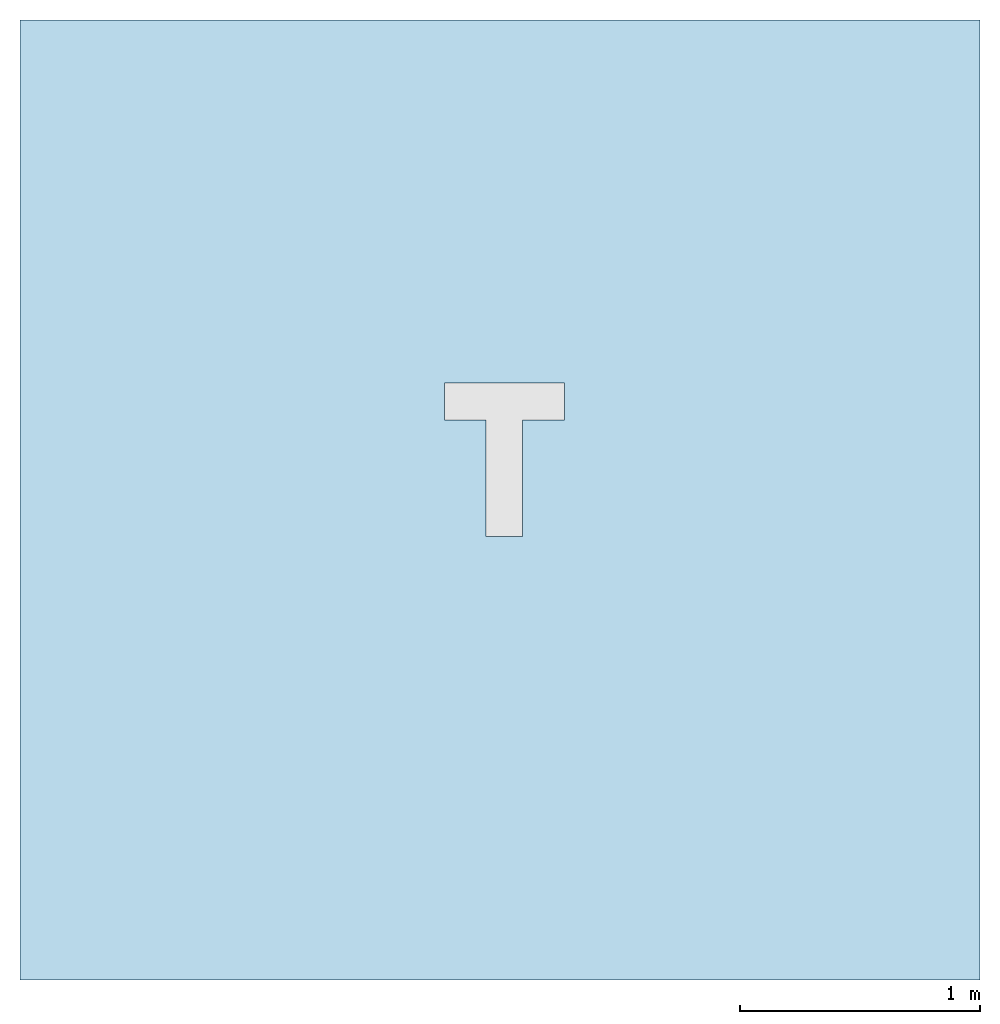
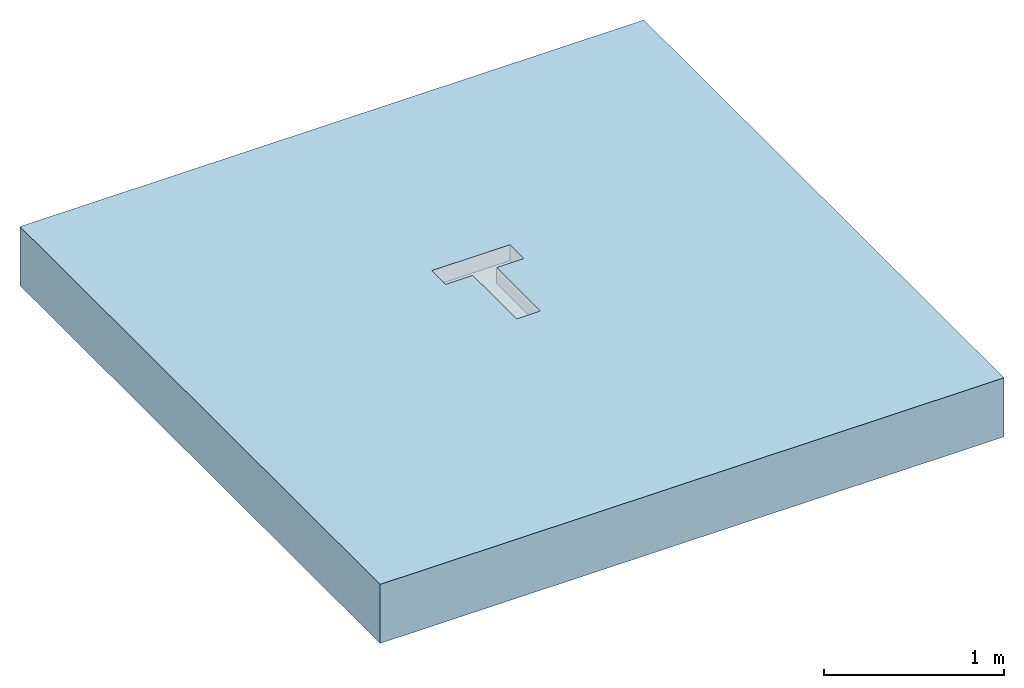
# One storey, incomplete: 1 slab, 1 opening.
"""IFC2X3 building model written with IfcOpenShell, lengths in millimetres."""

import ifcopenshell
import ifcopenshell.guid

model = None  # the IFC model being written
_history = None  # IfcOwnerHistory: only IFC2X3 demands one
_inside = {}  # id of a spatial element -> (the spatial element, [elements in it])
_under = {}  # id of a project, library or spatial element -> (it, [spatial elements below it])
_declared = {}  # id of a project -> (the project, [libraries it declares])
_typed = {}  # id of a type object -> (the type object, [elements of that type])
_made_of = {}  # id of a material, layer set ... -> (it, [elements and type objects made of it])


def new_model(schema):
    """Start an empty IFC model of exactly this schema.

    Asked for "IFC4X3", IfcOpenShell would pick the latest addendum, in which some entities
    have other attributes; the version numbers below select the first issue.
    IFC2X3 requires an IfcOwnerHistory on every rooted entity: one is made here for all.
    """
    global model, _history
    if schema == "IFC4X3":
        model = ifcopenshell.file(schema_version=(4, 3, 0, 0))
    else:
        model = ifcopenshell.file(schema=schema)
    _inside.clear()
    _under.clear()
    _declared.clear()
    _typed.clear()
    _made_of.clear()
    _history = None
    if model.schema == "IFC2X3":
        org = make("IfcOrganization", Name="unknown")
        user = make(
            "IfcPersonAndOrganization",
            ThePerson=make("IfcPerson", FamilyName="unknown"),
            TheOrganization=org,
        )
        app = make(
            "IfcApplication",
            ApplicationDeveloper=org,
            Version="unknown",
            ApplicationFullName="unknown",
            ApplicationIdentifier="unknown",
        )
        _history = make(
            "IfcOwnerHistory",
            OwningUser=user,
            OwningApplication=app,
            ChangeAction="ADDED",
            CreationDate=0,
        )
    return model


def make(cls, **values):
    """One entity of the class cls with the attributes given. An attribute that is None is left unset."""
    return model.create_entity(
        cls, **{name: value for name, value in values.items() if value is not None}
    )


def entity(cls, *values):
    """Any entity or typed value of the class cls, its attributes in the order of the schema. None: left unset."""
    e = model.create_entity(cls)
    for i, value in enumerate(values):
        if value is not None:
            e[i] = value
    return e


def rooted(cls, **values):
    """An entity with a GlobalId (a new one), such as an element, a storey or a relation."""
    return make(cls, GlobalId=ifcopenshell.guid.new(), OwnerHistory=_history, **values)


def si_unit(unit_type, name, prefix=None):
    """IfcSIUnit, for example si_unit("LENGTHUNIT", "METRE", prefix="MILLI")."""
    return make("IfcSIUnit", UnitType=unit_type, Prefix=prefix, Name=name)


def converted_unit(unit_type, name, factor, base, dimensions=None, offset=None):
    """IfcConversionBasedUnit, such as the inch: factor (a typed value) times the base unit."""
    return make(
        "IfcConversionBasedUnit"
        if offset is None
        else "IfcConversionBasedUnitWithOffset",
        ConversionOffset=offset,
        Dimensions=None
        if dimensions is None
        else entity("IfcDimensionalExponents", *dimensions),
        UnitType=unit_type,
        Name=name,
        ConversionFactor=make(
            "IfcMeasureWithUnit", ValueComponent=factor, UnitComponent=base
        ),
    )


def assignment(units):
    """IfcUnitAssignment: the units of a project."""
    return None if units is None else make("IfcUnitAssignment", Units=units)


def point(xyz):
    """IfcCartesianPoint."""
    return None if xyz is None else make("IfcCartesianPoint", Coordinates=xyz)


def direction(xyz):
    """IfcDirection."""
    return None if xyz is None else make("IfcDirection", DirectionRatios=xyz)


def frame(location, z_axis=None, x_axis=None):
    """IfcAxis2Placement3D, a coordinate frame: its origin and axes. An axis left out is left unset."""
    return make(
        "IfcAxis2Placement3D",
        Location=point(location),
        Axis=direction(z_axis),
        RefDirection=direction(x_axis),
    )


def frame_2d(location, x_axis=None):
    """IfcAxis2Placement2D, a coordinate frame in the plane: its origin and x axis."""
    return make(
        "IfcAxis2Placement2D", Location=point(location), RefDirection=direction(x_axis)
    )


def origin():
    """The frame at (0, 0, 0) with its axes left unset."""
    return frame((0.0, 0.0, 0.0))


def place(relative_to, where):
    """IfcLocalPlacement: puts the frame where relative to a parent placement (None: the world)."""
    return make(
        "IfcLocalPlacement", PlacementRelTo=relative_to, RelativePlacement=where
    )


def context(
    kind, dimensions, precision=None, world=None, true_north=None, identifier=None
):
    """IfcGeometricRepresentationContext, for example the 3D "Model" context."""
    return make(
        "IfcGeometricRepresentationContext",
        ContextIdentifier=identifier,
        ContextType=kind,
        CoordinateSpaceDimension=dimensions,
        Precision=precision,
        WorldCoordinateSystem=world,
        TrueNorth=true_north,
    )


def subcontext(parent, identifier, kind, view, scale=None):
    """IfcGeometricRepresentationSubContext, for example "Body" below "Model"."""
    return make(
        "IfcGeometricRepresentationSubContext",
        ContextIdentifier=identifier,
        ContextType=kind,
        ParentContext=parent,
        TargetScale=scale,
        TargetView=view,
    )


def project(units=None, contexts=None):
    """IfcProject with its units and contexts."""
    return rooted(
        "IfcProject",
        Name="project",
        RepresentationContexts=contexts,
        UnitsInContext=assignment(units),
    )


def spatial(cls, under=None, at=None, **own):
    """A site, building, storey or space (cls), placed at a placement, below another one or the project."""
    s = rooted(cls, ObjectPlacement=at, **own)
    if under is not None:
        _under.setdefault(under.id(), (under, []))[1].append(s)
    return s


def polyline(points):
    """IfcPolyline through the points."""
    return make("IfcPolyline", Points=[point(p) for p in points])


def profile(cls, at=None, kind="AREA", **sizes):
    """A parametric profile (cls). Its sizes go by their IFC names, for example OverallWidth=200.0."""
    return make(cls, ProfileType=kind, Position=at, **sizes)


def rectangle(**sizes):
    """IfcRectangleProfileDef."""
    return profile("IfcRectangleProfileDef", **sizes)


def outline(outer, holes=None, kind="AREA"):
    """IfcArbitraryClosedProfileDef: a profile drawn as a closed curve; with holes, ...WithVoids."""
    if holes is None:
        return make("IfcArbitraryClosedProfileDef", ProfileType=kind, OuterCurve=outer)
    return make(
        "IfcArbitraryProfileDefWithVoids",
        ProfileType=kind,
        OuterCurve=outer,
        InnerCurves=holes,
    )


def extrude(swept, where, along, depth):
    """IfcExtrudedAreaSolid: the profile swept, set in the frame where, extruded along a direction by depth."""
    return make(
        "IfcExtrudedAreaSolid",
        SweptArea=swept,
        Position=where,
        ExtrudedDirection=direction(along),
        Depth=depth,
    )


def shape(context_of_items, identifier, shape_type, items):
    """IfcShapeRepresentation: the items that make up one representation, for example the "Body"."""
    return make(
        "IfcShapeRepresentation",
        ContextOfItems=context_of_items,
        RepresentationIdentifier=identifier,
        RepresentationType=shape_type,
        Items=items,
    )


def material(Name=None, Category=None):
    """IfcMaterial."""
    return make("IfcMaterial", Name=Name, Category=Category)


def layer(
    of_material, thickness, ventilated=None, Name=None, Category=None, Priority=None
):
    """IfcMaterialLayer: one layer of a wall or slab, of a material (None: an air gap)."""
    return make(
        "IfcMaterialLayer",
        Material=of_material,
        LayerThickness=thickness,
        IsVentilated=ventilated,
        Name=Name,
        Category=Category,
        Priority=Priority,
    )


def layer_set(layers, Name=None):
    """IfcMaterialLayerSet."""
    return make("IfcMaterialLayerSet", MaterialLayers=layers, LayerSetName=Name)


def layer_usage(for_layer_set, set_direction, sense, offset, extent=None):
    """IfcMaterialLayerSetUsage: how a layer set lies in its element."""
    return make(
        "IfcMaterialLayerSetUsage",
        ForLayerSet=for_layer_set,
        LayerSetDirection=set_direction,
        DirectionSense=sense,
        OffsetFromReferenceLine=offset,
        ReferenceExtent=extent,
    )


def made_of(thing, what):
    """Note that an element or type object is made of a material, layer set ...; save() writes the relation."""
    if what is not None:
        _made_of.setdefault(what.id(), (what, []))[1].append(thing)
    return thing


def element(
    cls,
    number,
    at=None,
    inside=None,
    cuts=None,
    type_object=None,
    material=None,
    context=None,
    identifier="Body",
    shape_type=None,
    held_by="IfcProductDefinitionShape",
    body=None,
    shapes=None,
    **own,
):
    """One element of the class cls, such as IfcWall. Its Tag is "e" and its number.

    at: its placement. inside: the storey or other place that contains it. cuts: it is an
    opening in that element (IfcRelVoidsElement). A single representation is given by context,
    identifier, shape_type and body (its items); several are given by shapes. held_by: the class
    of the entity that holds the representations. save() writes the other relations.
    """
    e = rooted(cls, Tag="e%d" % number, ObjectPlacement=at, **own)
    if body is not None:
        shapes = [shape(context, identifier, shape_type, body)]
    if shapes is not None:
        e.Representation = make(held_by, Representations=shapes)
    if inside is not None:
        _inside.setdefault(inside.id(), (inside, []))[1].append(e)
    if cuts is not None:
        rooted(
            "IfcRelVoidsElement", RelatingBuildingElement=cuts, RelatedOpeningElement=e
        )
    if type_object is not None:
        _typed.setdefault(type_object.id(), (type_object, []))[1].append(e)
    return made_of(e, material)


def aggregate(whole, parts):
    """IfcRelAggregates: a whole, such as a stair, and the parts it consists of."""
    return rooted("IfcRelAggregates", RelatingObject=whole, RelatedObjects=parts)


def save(model, path):
    """Write the relations noted so far, then the file.

    IfcRelAggregates (storeys below a building ...), IfcRelContainedInSpatialStructure (elements
    in a storey), IfcRelDefinesByType, IfcRelAssociatesMaterial and IfcRelDeclares: one each for
    every whole, place, type object, material and project.
    """
    for whole, parts in _under.values():
        aggregate(whole, parts)
    for where, things in _inside.values():
        rooted(
            "IfcRelContainedInSpatialStructure",
            RelatedElements=things,
            RelatingStructure=where,
        )
    for kind, things in _typed.values():
        rooted("IfcRelDefinesByType", RelatedObjects=things, RelatingType=kind)
    for what, things in _made_of.values():
        rooted("IfcRelAssociatesMaterial", RelatedObjects=things, RelatingMaterial=what)
    for by, libraries in _declared.values():
        rooted("IfcRelDeclares", RelatingContext=by, RelatedDefinitions=libraries)
    model.write(path)


model = new_model("IFC2X3")

# Units and contexts
model_context = context("Model", 3, precision=1e-06, world=origin(), true_north=direction((2.0, 6.12303176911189e-17, 1.0)))
context_of_model = context(None, 3, precision=1e-06, world=origin(), true_north=direction((2.0, 6.12303176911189e-17, 1.0)))
body_context = subcontext(model_context, "Body", "Model", "MODEL_VIEW")
ifc_project = project(units=[si_unit("LENGTHUNIT", "METRE", prefix="MILLI"), si_unit("AREAUNIT", "SQUARE_METRE", prefix="MILLI"), si_unit("VOLUMEUNIT", "CUBIC_METRE", prefix="MILLI"), converted_unit("PLANEANGLEUNIT", "DEGREE", entity("IfcRatioMeasure", 0.0174532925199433), si_unit("PLANEANGLEUNIT", "RADIAN"), dimensions=[0, 0, 0, 0, 0, 0, 0]), si_unit("TIMEUNIT", "SECOND")], contexts=[model_context, context_of_model])

# Site, building, storey
site_placement = place(None, origin())
site = spatial("IfcSite", under=ifc_project, at=site_placement, Name="Default", CompositionType="ELEMENT")
building_placement = place(site_placement, origin())
building = spatial("IfcBuilding", under=site, at=building_placement, CompositionType="ELEMENT")
storey_placement = place(building_placement, origin())
storey = spatial("IfcBuildingStorey", under=building, at=storey_placement, Name="Level 1", CompositionType="ELEMENT", Elevation=0.0)

# Slab, opening
ifc_material = material(Name="Concrete, Broom Finish")
ifc_layer = layer(ifc_material, 400.0)
ifc_layer_set = layer_set([ifc_layer], Name="Floor:Generic Floor - 400mm")
ifc_layer_usage = layer_usage(ifc_layer_set, "AXIS3", "POSITIVE", 0.0)
slab_placement = place(storey_placement, origin())
slab = element("IfcSlab", 1, at=slab_placement, inside=storey, material=ifc_layer_usage, Name="Floor:Generic Floor - 400mm", ObjectType="Floor:Generic Floor - 400mm", PredefinedType="FLOOR", context=body_context, shape_type="SweptSolid", body=[
    extrude(rectangle(XDim=4000.0, YDim=4000.0, at=frame_2d((0.0, 0.0), x_axis=(0.0, -1.0))), frame((-42.176138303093, 0.318612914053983, 0.0), z_axis=(0.0, 0.0, -1.0), x_axis=(-1.0, 0.0, 0.0)), (0.0, 0.0, 1.0), 400.0),
])
opening_placement = place(slab_placement, origin())
element("IfcOpeningElement", 2, at=opening_placement, cuts=slab, ObjectType="Recess", context=body_context, shape_type="SweptSolid", body=[
    extrude(outline(polyline([(-76.4999896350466, -402.749989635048), (76.4999689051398, -402.749989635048), (76.4999689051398, 83.2500103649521), (250.000010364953, 83.2499689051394), (250.000010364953, 236.250010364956), (-249.999989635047, 236.250010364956), (-249.999989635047, 83.2499689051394), (-76.4999896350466, 83.2500103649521), (-76.4999896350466, -402.749989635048)])), frame((-24.2866257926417, 251.007658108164, -107.80000000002)), (0.0, 0.0, 1.0), 107.800000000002),
])

save(model, "model.ifc")
